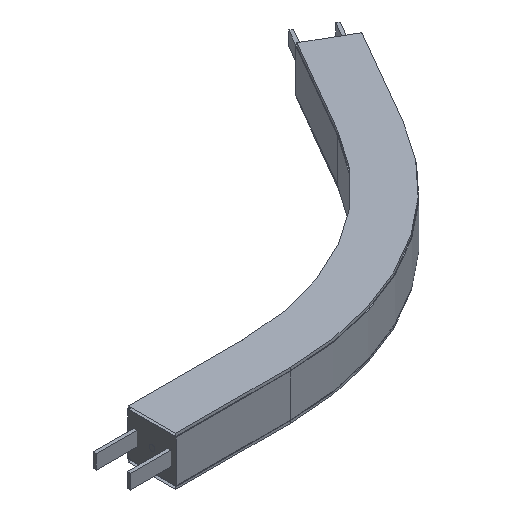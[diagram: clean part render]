
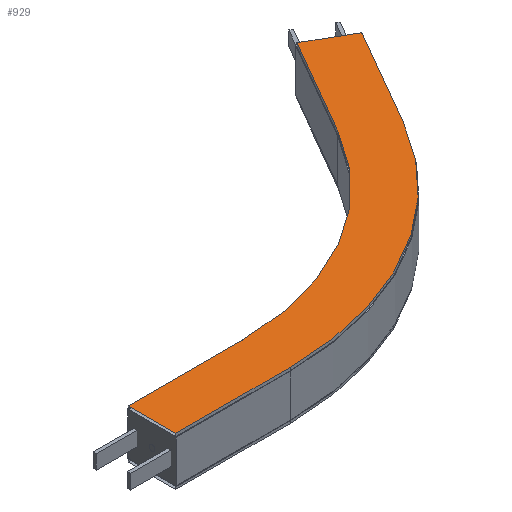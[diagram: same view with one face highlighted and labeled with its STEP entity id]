
A CAD part, isometric view. The second image highlights one B-rep face of the part: STEP entity #929.
In plain terms, the highlighted planar face has unit normal (0, 0, -1).
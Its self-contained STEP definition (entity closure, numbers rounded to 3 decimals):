
#61=CIRCLE('',#1011,458.5);
#62=CIRCLE('',#1013,541.5);
#119=FACE_OUTER_BOUND('',#171,.T.);
#171=EDGE_LOOP('',(#794,#795,#796,#797,#798,#799,#800,#801));
#253=LINE('',#1463,#363);
#255=LINE('',#1469,#365);
#262=LINE('',#1490,#372);
#267=LINE('',#1499,#377);
#268=LINE('',#1501,#378);
#269=LINE('',#1502,#379);
#363=VECTOR('',#1198,10.);
#365=VECTOR('',#1202,10.);
#372=VECTOR('',#1223,10.);
#377=VECTOR('',#1232,10.);
#378=VECTOR('',#1235,10.);
#379=VECTOR('',#1236,10.);
#453=VERTEX_POINT('',#1457);
#455=VERTEX_POINT('',#1461);
#456=VERTEX_POINT('',#1465);
#458=VERTEX_POINT('',#1468);
#461=VERTEX_POINT('',#1475);
#462=VERTEX_POINT('',#1480);
#464=VERTEX_POINT('',#1486);
#467=VERTEX_POINT('',#1497);
#565=EDGE_CURVE('',#453,#455,#253,.T.);
#567=EDGE_CURVE('',#456,#458,#255,.T.);
#572=EDGE_CURVE('',#461,#453,#61,.T.);
#574=EDGE_CURVE('',#462,#456,#62,.T.);
#578=EDGE_CURVE('',#464,#461,#262,.T.);
#583=EDGE_CURVE('',#467,#462,#267,.T.);
#584=EDGE_CURVE('',#467,#464,#268,.T.);
#585=EDGE_CURVE('',#455,#458,#269,.T.);
#794=ORIENTED_EDGE('',*,*,#584,.T.);
#795=ORIENTED_EDGE('',*,*,#578,.T.);
#796=ORIENTED_EDGE('',*,*,#572,.T.);
#797=ORIENTED_EDGE('',*,*,#565,.T.);
#798=ORIENTED_EDGE('',*,*,#585,.T.);
#799=ORIENTED_EDGE('',*,*,#567,.F.);
#800=ORIENTED_EDGE('',*,*,#574,.F.);
#801=ORIENTED_EDGE('',*,*,#583,.F.);
#879=PLANE('',#1018);
#929=ADVANCED_FACE('',(#119),#879,.F.);
#1011=AXIS2_PLACEMENT_3D('',#1478,#1210,#1211);
#1013=AXIS2_PLACEMENT_3D('',#1483,#1215,#1216);
#1018=AXIS2_PLACEMENT_3D('',#1500,#1233,#1234);
#1198=DIRECTION('',(0.5,0.866,0.));
#1202=DIRECTION('',(0.5,0.866,0.));
#1210=DIRECTION('center_axis',(0.,0.,
1.));
#1211=DIRECTION('ref_axis',(0.,-1.,0.));
#1215=DIRECTION('center_axis',(0.,0.,
1.));
#1216=DIRECTION('ref_axis',(0.,-1.,0.));
#1223=DIRECTION('',(1.,0.,0.));
#1232=DIRECTION('',(1.,0.,0.));
#1233=DIRECTION('center_axis',(0.,0.,1.));
#1234=DIRECTION('ref_axis',(0.,-1.,0.));
#1235=DIRECTION('',(0.,1.,0.));
#1236=DIRECTION('',(0.866,-0.5,0.));
#1457=CARTESIAN_POINT('',(597.073,270.75,42.5));
#1461=CARTESIAN_POINT('',(697.073,443.955,42.5));
#1463=CARTESIAN_POINT('',(597.073,270.75,42.5));
#1465=CARTESIAN_POINT('',(668.953,229.25,42.5));
#1468=CARTESIAN_POINT('',(768.953,402.455,42.5));
#1469=CARTESIAN_POINT('',(668.953,229.25,42.5));
#1475=CARTESIAN_POINT('',(200.,41.5,42.5));
#1478=CARTESIAN_POINT('Origin',(200.,500.,42.5));
#1480=CARTESIAN_POINT('',(200.,-41.5,42.5));
#1483=CARTESIAN_POINT('Origin',(200.,500.,42.5));
#1486=CARTESIAN_POINT('',(0.,41.5,42.5));
#1490=CARTESIAN_POINT('',(0.,41.5,42.5));
#1497=CARTESIAN_POINT('',(0.,-41.5,42.5));
#1499=CARTESIAN_POINT('',(0.,-41.5,42.5));
#1500=CARTESIAN_POINT('Origin',(0.,41.5,42.5));
#1501=CARTESIAN_POINT('',(0.,-41.5,42.5));
#1502=CARTESIAN_POINT('',(768.953,402.455,42.5));
